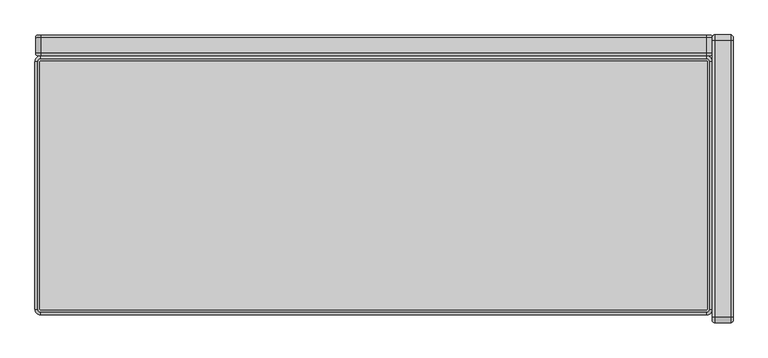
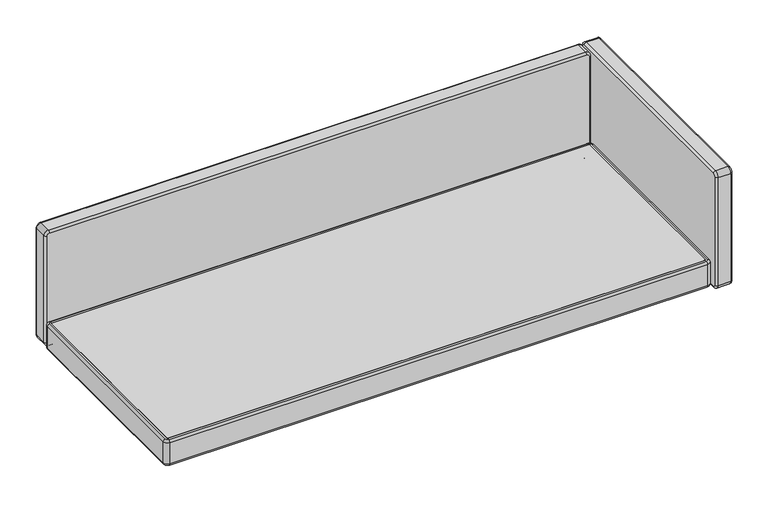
"""IFC4 building model written with IfcOpenShell, lengths in millimetres: furniture geometry, Fredericia - EJ220 Sofa 2 seater 100 - 2062 : Fredericia - EJ220 Sofa 2 seater 100 - 2062."""

from ifc_helpers import new_model, si_unit, point, frame, origin, place, context, project, spatial, circle_curve, ellipse_curve, trimmed, source, transform, mapped, element, save
from ifc_brep_helpers import plane_surface, cylinder_surface, revolved_surface, advanced_brep


def furniture_a06d87e3(model_context):
    return source(origin(), model_context, "Body", "AdvancedBrep", [
        advanced_brep(
        [(-990.361679, 788.5182574, 617.6458587), (-990.361679, 788.5182574, 207.2714708), (-980.761679, 788.5182574, 197.6714708), (982.5320736, 788.5182574, 197.6714708), (992.1320736, 788.5182574, 207.2714708), (992.1320736, 788.5182574, 617.6458587), (982.5320736, 788.5182574, 627.2458587), (-980.761679, 788.5182574, 627.2458587), (-990.361679, 850.0101989, 207.2714708), (-990.361679, 850.0101989, 617.6458587), (-980.761679, 850.0101989, 627.2458587), (982.5320736, 850.0101989, 627.2458587), (992.1320736, 850.0101989, 617.6458587), (992.1320736, 850.0101989, 207.2714708), (982.5320736, 850.0101989, 197.6714708), (-980.761679, 850.0101989, 197.6714708), (-997.861679, 796.0182574, 207.2714708), (-997.861679, 796.0182574, 617.6458587), (-997.861679, 842.5101989, 617.6458587), (-997.861679, 842.5101989, 207.2714708), (-980.761679, 796.0182574, 634.7458587), (982.5320736, 796.0182574, 634.7458587), (982.5320736, 842.5101989, 634.7458587), (-980.761679, 842.5101989, 634.7458587), (999.6320736, 796.0182574, 617.6458587), (999.6320736, 796.0182574, 207.2714708), (999.6320736, 842.5101989, 207.2714708), (999.6320736, 842.5101989, 617.6458587), (982.5320736, 796.0182574, 190.1714708), (-980.761679, 796.0182574, 190.1714708), (-980.761679, 842.5101989, 190.1714708), (982.5320736, 842.5101989, 190.1714708)],
        [
            (0, 1),
            (1, 2, circle_curve(frame((-980.761679, 788.5182574, 207.2714708), z_axis=(0.0, -1.0, 0.0), x_axis=(0.0, 0.0, -1.0)), 9.6)),
            (2, 3),
            (3, 4, circle_curve(frame((982.5320736, 788.5182574, 207.2714708), z_axis=(0.0, -1.0, 0.0), x_axis=(1.0, 0.0, 0.0)), 9.6)),
            (4, 5),
            (5, 6, circle_curve(frame((982.5320736, 788.5182574, 617.6458587), z_axis=(0.0, -1.0, 0.0), x_axis=(0.0, 0.0, 1.0)), 9.6)),
            (6, 7),
            (7, 0, circle_curve(frame((-980.761679, 788.5182574, 617.6458587), z_axis=(0.0, -1.0, 0.0), x_axis=(-1.0, 0.0, 0.0)), 9.6)),
            (8, 9),
            (9, 10, circle_curve(frame((-980.761679, 850.0101989, 617.6458587), z_axis=(0.0, 1.0, 0.0), x_axis=(-1.0, 0.0, 0.0)), 9.6)),
            (10, 11),
            (11, 12, circle_curve(frame((982.5320736, 850.0101989, 617.6458587), z_axis=(0.0, 1.0, 0.0), x_axis=(0.0, 0.0, 1.0)), 9.6)),
            (12, 13),
            (13, 14, circle_curve(frame((982.5320736, 850.0101989, 207.2714708), z_axis=(0.0, 1.0, 0.0), x_axis=(1.0, 0.0, 0.0)), 9.6)),
            (14, 15),
            (15, 8, circle_curve(frame((-980.761679, 850.0101989, 207.2714708), z_axis=(0.0, 1.0, 0.0), x_axis=(0.0, 0.0, -1.0)), 9.6)),
            (16, 1, circle_curve(frame((-990.361679, 796.0182574, 207.2714708), z_axis=(0.0, 0.0, 1.0), x_axis=(1.0, 0.0, 0.0)), 7.5)),
            (0, 17, circle_curve(frame((-990.361679, 796.0182574, 617.6458587), z_axis=(0.0, 0.0, -1.0), x_axis=(1.0, 0.0, 0.0)), 7.5)),
            (17, 16),
            (17, 18),
            (18, 19),
            (19, 16),
            (18, 9, circle_curve(frame((-990.361679, 842.5101989, 617.6458587), z_axis=(0.0, 0.0, -1.0), x_axis=(1.0, 0.0, 0.0)), 7.5)),
            (8, 19, circle_curve(frame((-990.361679, 842.5101989, 207.2714708), z_axis=(0.0, 0.0, 1.0), x_axis=(1.0, 0.0, 0.0)), 7.5)),
            (20, 7, circle_curve(frame((-980.761679, 796.0182574, 627.2458587), z_axis=(1.0, 0.0, 0.0), x_axis=(0.0, 0.0, -1.0)), 7.5)),
            (6, 21, circle_curve(frame((982.5320736, 796.0182574, 627.2458587), z_axis=(-1.0, 0.0, 0.0), x_axis=(0.0, 0.0, -1.0)), 7.5)),
            (21, 20),
            (21, 22),
            (22, 23),
            (23, 20),
            (22, 11, circle_curve(frame((982.5320736, 842.5101989, 627.2458587), z_axis=(-1.0, 0.0, 0.0), x_axis=(0.0, 0.0, -1.0)), 7.5)),
            (10, 23, circle_curve(frame((-980.761679, 842.5101989, 627.2458587), z_axis=(1.0, 0.0, 0.0), x_axis=(0.0, 0.0, -1.0)), 7.5)),
            (24, 5, circle_curve(frame((992.1320736, 796.0182574, 617.6458587), z_axis=(0.0, 0.0, -1.0), x_axis=(-1.0, 0.0, 0.0)), 7.5)),
            (4, 25, circle_curve(frame((992.1320736, 796.0182574, 207.2714708), z_axis=(0.0, 0.0, 1.0), x_axis=(-1.0, 0.0, 0.0)), 7.5)),
            (25, 24),
            (25, 26),
            (26, 27),
            (27, 24),
            (26, 13, circle_curve(frame((992.1320736, 842.5101989, 207.2714708), z_axis=(0.0, 0.0, 1.0), x_axis=(-1.0, 0.0, 0.0)), 7.5)),
            (12, 27, circle_curve(frame((992.1320736, 842.5101989, 617.6458587), z_axis=(0.0, 0.0, -1.0), x_axis=(-1.0, 0.0, 0.0)), 7.5)),
            (28, 3, circle_curve(frame((982.5320736, 796.0182574, 197.6714708), z_axis=(-1.0, 0.0, 0.0), x_axis=(0.0, 0.0, 1.0)), 7.5)),
            (2, 29, circle_curve(frame((-980.761679, 796.0182574, 197.6714708), z_axis=(1.0, 0.0, 0.0), x_axis=(0.0, 0.0, 1.0)), 7.5)),
            (29, 28),
            (29, 30),
            (30, 31),
            (31, 28),
            (30, 15, circle_curve(frame((-980.761679, 842.5101989, 197.6714708), z_axis=(1.0, 0.0, 0.0), x_axis=(0.0, 0.0, 1.0)), 7.5)),
            (14, 31, circle_curve(frame((982.5320736, 842.5101989, 197.6714708), z_axis=(-1.0, 0.0, 0.0), x_axis=(0.0, 0.0, 1.0)), 7.5)),
            (16, 29, circle_curve(frame((-980.761679, 796.0182574, 207.2714708), z_axis=(0.0, -1.0, 0.0), x_axis=(0.0, 0.0, -1.0)), 17.1)),
            (19, 30, circle_curve(frame((-980.761679, 842.5101989, 207.2714708), z_axis=(0.0, -1.0, 0.0), x_axis=(0.0, 0.0, -1.0)), 17.1)),
            (20, 17, circle_curve(frame((-980.761679, 796.0182574, 617.6458587), z_axis=(0.0, -1.0, 0.0), x_axis=(-1.0, 0.0, 0.0)), 17.1)),
            (23, 18, circle_curve(frame((-980.761679, 842.5101989, 617.6458587), z_axis=(0.0, -1.0, 0.0), x_axis=(-1.0, 0.0, 0.0)), 17.1)),
            (24, 21, circle_curve(frame((982.5320736, 796.0182574, 617.6458587), z_axis=(0.0, -1.0, 0.0), x_axis=(0.0, 0.0, 1.0)), 17.1)),
            (27, 22, circle_curve(frame((982.5320736, 842.5101989, 617.6458587), z_axis=(0.0, -1.0, 0.0), x_axis=(0.0, 0.0, 1.0)), 17.1)),
            (28, 25, circle_curve(frame((982.5320736, 796.0182574, 207.2714708), z_axis=(0.0, -1.0, 0.0), x_axis=(1.0, 0.0, 0.0)), 17.1)),
            (31, 26, circle_curve(frame((982.5320736, 842.5101989, 207.2714708), z_axis=(0.0, -1.0, 0.0), x_axis=(1.0, 0.0, 0.0)), 17.1)),
        ],
        [
            plane_surface(frame((401.3694773, 788.5182574, 622.3295429), z_axis=(0.0, -1.0, 0.0), x_axis=(-1.0, 0.0, 0.0))),
            plane_surface(frame((401.3694773, 850.0101989, 622.3295429), z_axis=(0.0, 1.0, 0.0), x_axis=(1.0, 0.0, 0.0))),
            cylinder_surface(frame((-990.361679, 796.0182574, 207.2714708), z_axis=(0.0, 0.0, -1.0), x_axis=(1.0, 0.0, 0.0)), 7.5),
            plane_surface(frame((-997.861679, 796.0182574, 207.2714708), z_axis=(-1.0, 0.0, 0.0), x_axis=(0.0, 0.0, 1.0))),
            cylinder_surface(frame((-990.361679, 842.5101989, 207.2714708), z_axis=(0.0, 0.0, -1.0), x_axis=(1.0, 0.0, 0.0)), 7.5),
            cylinder_surface(frame((-980.761679, 796.0182574, 627.2458587), z_axis=(-1.0, 0.0, 0.0), x_axis=(0.0, 0.0, -1.0)), 7.5),
            plane_surface(frame((-980.761679, 796.0182574, 634.7458587), z_axis=(0.0, 0.0, 1.0), x_axis=(1.0, 0.0, 0.0))),
            cylinder_surface(frame((-980.761679, 842.5101989, 627.2458587), z_axis=(-1.0, 0.0, 0.0), x_axis=(0.0, 0.0, -1.0)), 7.5),
            cylinder_surface(frame((992.1320736, 796.0182574, 617.6458587), z_axis=(0.0, 0.0, 1.0), x_axis=(-1.0, 0.0, 0.0)), 7.5),
            plane_surface(frame((999.6320736, 796.0182574, 617.6458587), z_axis=(1.0, 0.0, 0.0), x_axis=(0.0, 0.0, -1.0))),
            cylinder_surface(frame((992.1320736, 842.5101989, 617.6458587), z_axis=(0.0, 0.0, 1.0), x_axis=(-1.0, 0.0, 0.0)), 7.5),
            cylinder_surface(frame((982.5320736, 796.0182574, 197.6714708), z_axis=(1.0, 0.0, 0.0), x_axis=(0.0, 0.0, 1.0)), 7.5),
            plane_surface(frame((982.5320736, 796.0182574, 190.1714708), z_axis=(0.0, 0.0, -1.0), x_axis=(-1.0, 0.0, 0.0))),
            cylinder_surface(frame((982.5320736, 842.5101989, 197.6714708), z_axis=(1.0, 0.0, 0.0), x_axis=(0.0, 0.0, 1.0)), 7.5),
            revolved_surface(trimmed(ellipse_curve(frame((-980.761679, 796.0182574, 197.6714708), z_axis=(1.0, 0.0, 0.0), x_axis=(0.0, 0.0, 1.0)), 7.5, 7.5), [point((-980.761679, 788.5182574, 197.6714708))], [point((-980.761679, 796.0182574, 190.1714708))], True, "CARTESIAN"), (-980.761679, 850.0101989, 207.2714708), (0.0, 1.0, 0.0)),
            cylinder_surface(frame((-980.761679, 850.0101989, 207.2714708), z_axis=(0.0, 1.0, 0.0), x_axis=(0.0, 0.0, -1.0)), 17.1),
            revolved_surface(trimmed(ellipse_curve(frame((-980.761679, 842.5101989, 197.6714708), z_axis=(1.0, 0.0, 0.0), x_axis=(0.0, 0.0, 1.0)), 7.5, 7.5), [point((-980.761679, 842.5101989, 190.1714708))], [point((-980.761679, 850.0101989, 197.6714708))], True, "CARTESIAN"), (-980.761679, 850.0101989, 207.2714708), (0.0, 1.0, 0.0)),
            revolved_surface(trimmed(ellipse_curve(frame((-990.361679, 796.0182574, 617.6458587), z_axis=(0.0, 0.0, -1.0), x_axis=(1.0, 0.0, 0.0)), 7.5, 7.5), [point((-990.361679, 788.5182574, 617.6458587))], [point((-997.861679, 796.0182574, 617.6458587))], True, "CARTESIAN"), (-980.761679, 850.0101989, 617.6458587), (0.0, 1.0, 0.0)),
            cylinder_surface(frame((-980.761679, 850.0101989, 617.6458587), z_axis=(0.0, 1.0, 0.0), x_axis=(-1.0, 0.0, 0.0)), 17.1),
            revolved_surface(trimmed(ellipse_curve(frame((-990.361679, 842.5101989, 617.6458587), z_axis=(0.0, 0.0, -1.0), x_axis=(1.0, 0.0, 0.0)), 7.5, 7.5), [point((-997.861679, 842.5101989, 617.6458587))], [point((-990.361679, 850.0101989, 617.6458587))], True, "CARTESIAN"), (-980.761679, 850.0101989, 617.6458587), (0.0, 1.0, 0.0)),
            revolved_surface(trimmed(ellipse_curve(frame((982.5320736, 796.0182574, 627.2458587), z_axis=(-1.0, 0.0, 0.0), x_axis=(0.0, 0.0, -1.0)), 7.5, 7.5), [point((982.5320736, 788.5182574, 627.2458587))], [point((982.5320736, 796.0182574, 634.7458587))], True, "CARTESIAN"), (982.5320736, 850.0101989, 617.6458587), (0.0, 1.0, 0.0)),
            cylinder_surface(frame((982.5320736, 850.0101989, 617.6458587), z_axis=(0.0, 1.0, 0.0), x_axis=(0.0, 0.0, 1.0)), 17.1),
            revolved_surface(trimmed(ellipse_curve(frame((982.5320736, 842.5101989, 627.2458587), z_axis=(-1.0, 0.0, 0.0), x_axis=(0.0, 0.0, -1.0)), 7.5, 7.5), [point((982.5320736, 842.5101989, 634.7458587))], [point((982.5320736, 850.0101989, 627.2458587))], True, "CARTESIAN"), (982.5320736, 850.0101989, 617.6458587), (0.0, 1.0, 0.0)),
            revolved_surface(trimmed(ellipse_curve(frame((992.1320736, 796.0182574, 207.2714708), z_axis=(0.0, 0.0, 1.0), x_axis=(-1.0, 0.0, 0.0)), 7.5, 7.5), [point((992.1320736, 788.5182574, 207.2714708))], [point((999.6320736, 796.0182574, 207.2714708))], True, "CARTESIAN"), (982.5320736, 850.0101989, 207.2714708), (0.0, 1.0, 0.0)),
            cylinder_surface(frame((982.5320736, 850.0101989, 207.2714708), z_axis=(0.0, 1.0, 0.0), x_axis=(1.0, 0.0, 0.0)), 17.1),
            revolved_surface(trimmed(ellipse_curve(frame((992.1320736, 842.5101989, 207.2714708), z_axis=(0.0, 0.0, 1.0), x_axis=(-1.0, 0.0, 0.0)), 7.5, 7.5), [point((999.6320736, 842.5101989, 207.2714708))], [point((992.1320736, 850.0101989, 207.2714708))], True, "CARTESIAN"), (982.5320736, 850.0101989, 207.2714708), (0.0, 1.0, 0.0)),
        ],
        [
            (0, [[1, 2, 3, 4, 5, 6, 7, 8]]),
            (1, [[9, 10, 11, 12, 13, 14, 15, 16]]),
            (2, [[17, -1, 18, 19]]),
            (3, [[-19, 20, 21, 22]]),
            (4, [[-21, 23, -9, 24]]),
            (5, [[25, -7, 26, 27]]),
            (6, [[-27, 28, 29, 30]]),
            (7, [[-29, 31, -11, 32]]),
            (8, [[33, -5, 34, 35]]),
            (9, [[-35, 36, 37, 38]]),
            (10, [[-37, 39, -13, 40]]),
            (11, [[41, -3, 42, 43]]),
            (12, [[-43, 44, 45, 46]]),
            (13, [[-45, 47, -15, 48]]),
            (14, [[-17, 49, -42, -2]]),
            (15, [[-22, 50, -44, -49]]),
            (16, [[-24, -16, -47, -50]]),
            (17, [[-18, -8, -25, 51]]),
            (18, [[-20, -51, -30, 52]]),
            (19, [[-23, -52, -32, -10]]),
            (20, [[-26, -6, -33, 53]]),
            (21, [[-28, -53, -38, 54]]),
            (22, [[-31, -54, -40, -12]]),
            (23, [[-34, -4, -41, 55]]),
            (24, [[-36, -55, -46, 56]]),
            (25, [[-39, -56, -48, -14]]),
        ],
    ),
        advanced_brep(
        [(-992.1320736, 39.8, 192.7880862), (-992.1320736, 770.9641303, 192.7880862), (-982.5320736, 780.5641303, 192.7880862), (982.5320736, 780.5641303, 192.7880862), (992.1320736, 770.9641303, 192.7880862), (992.1320736, 39.8, 192.7880862), (982.5320736, 30.2, 192.7880862), (-982.5320736, 30.2, 192.7880862), (-982.5320736, 37.7, 290.0), (982.5320736, 37.7, 290.0), (984.6320736, 39.8, 290.0), (984.6320736, 770.9641303, 290.0), (982.5320736, 773.0641303, 290.0), (-982.5320736, 773.0641303, 290.0), (-984.6320736, 770.9641303, 290.0), (-984.6320736, 39.8, 290.0), (-982.5320736, 37.7, 289.8211901), (982.5320736, 37.7, 289.8211901), (984.6320736, 39.8, 289.8211901), (984.6320736, 770.9641303, 289.8211901), (982.5320736, 773.0641303, 289.8211901), (-982.5320736, 773.0641303, 289.8211901), (-984.6320736, 770.9641303, 289.8211901), (-984.6320736, 39.8, 289.8211901), (-999.6320736, 770.9641303, 200.2880862), (-999.6320736, 39.8, 200.2880862), (-999.6320736, 39.8, 282.3211901), (-999.6320736, 770.9641303, 282.3211901), (-992.1320736, 39.8, 289.8211901), (-992.1320736, 770.9641303, 289.8211901), (-982.5320736, 22.7, 200.2880862), (982.5320736, 22.7, 200.2880862), (982.5320736, 22.7, 282.3211901), (-982.5320736, 22.7, 282.3211901), (982.5320736, 30.2, 289.8211901), (-982.5320736, 30.2, 289.8211901), (999.6320736, 39.8, 200.2880862), (999.6320736, 770.9641303, 200.2880862), (999.6320736, 770.9641303, 282.3211901), (999.6320736, 39.8, 282.3211901), (992.1320736, 770.9641303, 289.8211901), (992.1320736, 39.8, 289.8211901), (982.5320736, 788.0641303, 200.2880862), (-982.5320736, 788.0641303, 200.2880862), (-982.5320736, 788.0641303, 282.3211901), (982.5320736, 788.0641303, 282.3211901), (-982.5320736, 780.5641303, 289.8211901), (982.5320736, 780.5641303, 289.8211901)],
        [
            (0, 1),
            (1, 2, circle_curve(frame((-982.5320736, 770.9641303, 192.7880862), z_axis=(0.0, 0.0, -1.0), x_axis=(0.0, 1.0, 0.0)), 9.6)),
            (2, 3),
            (3, 4, circle_curve(frame((982.5320736, 770.9641303, 192.7880862), z_axis=(0.0, 0.0, -1.0), x_axis=(1.0, 0.0, 0.0)), 9.6)),
            (4, 5),
            (5, 6, circle_curve(frame((982.5320736, 39.8, 192.7880862), z_axis=(0.0, 0.0, -1.0), x_axis=(0.0, -1.0, 0.0)), 9.6)),
            (6, 7),
            (7, 0, circle_curve(frame((-982.5320736, 39.8, 192.7880862), z_axis=(0.0, 0.0, -1.0), x_axis=(-1.0, 0.0, 0.0)), 9.6)),
            (8, 9),
            (9, 10, circle_curve(frame((982.5320736, 39.8, 290.0), z_axis=(0.0, 0.0, 1.0), x_axis=(0.0, 1.0, 0.0)), 2.1)),
            (10, 11),
            (11, 12, circle_curve(frame((982.5320736, 770.9641303, 290.0), z_axis=(0.0, 0.0, 1.0), x_axis=(0.0, 1.0, 0.0)), 2.1)),
            (12, 13),
            (13, 14, circle_curve(frame((-982.5320736, 770.9641303, 290.0), z_axis=(0.0, 0.0, 1.0), x_axis=(0.0, 1.0, 0.0)), 2.1)),
            (14, 15),
            (15, 8, circle_curve(frame((-982.5320736, 39.8, 290.0), z_axis=(0.0, 0.0, 1.0), x_axis=(0.0, 1.0, 0.0)), 2.1)),
            (8, 16),
            (16, 17),
            (17, 9),
            (17, 18, circle_curve(frame((982.5320736, 39.8, 289.8211901), z_axis=(0.0, 0.0, 1.0), x_axis=(0.0, 1.0, 0.0)), 2.1)),
            (18, 10),
            (18, 19),
            (19, 11),
            (19, 20, circle_curve(frame((982.5320736, 770.9641303, 289.8211901), z_axis=(0.0, 0.0, 1.0), x_axis=(0.0, 1.0, 0.0)), 2.1)),
            (20, 12),
            (20, 21),
            (21, 13),
            (21, 22, circle_curve(frame((-982.5320736, 770.9641303, 289.8211901), z_axis=(0.0, 0.0, 1.0), x_axis=(0.0, 1.0, 0.0)), 2.1)),
            (22, 14),
            (22, 23),
            (23, 15),
            (23, 16, circle_curve(frame((-982.5320736, 39.8, 289.8211901), z_axis=(0.0, 0.0, 1.0), x_axis=(0.0, 1.0, 0.0)), 2.1)),
            (24, 1, circle_curve(frame((-992.1320736, 770.9641303, 200.2880862), z_axis=(0.0, -1.0, 0.0), x_axis=(1.0, 0.0, 0.0)), 7.5)),
            (0, 25, circle_curve(frame((-992.1320736, 39.8, 200.2880862), z_axis=(0.0, 1.0, 0.0), x_axis=(1.0, 0.0, 0.0)), 7.5)),
            (25, 24),
            (25, 26),
            (26, 27),
            (27, 24),
            (26, 28, circle_curve(frame((-992.1320736, 39.8, 282.3211901), z_axis=(0.0, 1.0, 0.0), x_axis=(1.0, 0.0, 0.0)), 7.5)),
            (28, 29),
            (29, 27, circle_curve(frame((-992.1320736, 770.9641303, 282.3211901), z_axis=(0.0, -1.0, 0.0), x_axis=(1.0, 0.0, 0.0)), 7.5)),
            (30, 7, circle_curve(frame((-982.5320736, 30.2, 200.2880862), z_axis=(1.0, 0.0, 0.0), x_axis=(0.0, 1.0, 0.0)), 7.5)),
            (6, 31, circle_curve(frame((982.5320736, 30.2, 200.2880862), z_axis=(-1.0, 0.0, 0.0), x_axis=(0.0, 1.0, 0.0)), 7.5)),
            (31, 30),
            (31, 32),
            (32, 33),
            (33, 30),
            (32, 34, circle_curve(frame((982.5320736, 30.2, 282.3211901), z_axis=(-1.0, 0.0, 0.0), x_axis=(0.0, 1.0, 0.0)), 7.5)),
            (34, 35),
            (35, 33, circle_curve(frame((-982.5320736, 30.2, 282.3211901), z_axis=(1.0, 0.0, 0.0), x_axis=(0.0, 1.0, 0.0)), 7.5)),
            (36, 5, circle_curve(frame((992.1320736, 39.8, 200.2880862), z_axis=(0.0, 1.0, 0.0), x_axis=(-1.0, 0.0, 0.0)), 7.5)),
            (4, 37, circle_curve(frame((992.1320736, 770.9641303, 200.2880862), z_axis=(0.0, -1.0, 0.0), x_axis=(-1.0, 0.0, 0.0)), 7.5)),
            (37, 36),
            (37, 38),
            (38, 39),
            (39, 36),
            (38, 40, circle_curve(frame((992.1320736, 770.9641303, 282.3211901), z_axis=(0.0, -1.0, 0.0), x_axis=(-1.0, 0.0, 0.0)), 7.5)),
            (40, 41),
            (41, 39, circle_curve(frame((992.1320736, 39.8, 282.3211901), z_axis=(0.0, 1.0, 0.0), x_axis=(-1.0, 0.0, 0.0)), 7.5)),
            (42, 3, circle_curve(frame((982.5320736, 780.5641303, 200.2880862), z_axis=(-1.0, 0.0, 0.0), x_axis=(0.0, -1.0, 0.0)), 7.5)),
            (2, 43, circle_curve(frame((-982.5320736, 780.5641303, 200.2880862), z_axis=(1.0, 0.0, 0.0), x_axis=(0.0, -1.0, 0.0)), 7.5)),
            (43, 42),
            (43, 44),
            (44, 45),
            (45, 42),
            (44, 46, circle_curve(frame((-982.5320736, 780.5641303, 282.3211901), z_axis=(1.0, 0.0, 0.0), x_axis=(0.0, -1.0, 0.0)), 7.5)),
            (46, 47),
            (47, 45, circle_curve(frame((982.5320736, 780.5641303, 282.3211901), z_axis=(-1.0, 0.0, 0.0), x_axis=(0.0, -1.0, 0.0)), 7.5)),
            (24, 43, circle_curve(frame((-982.5320736, 770.9641303, 200.2880862), z_axis=(0.0, 0.0, -1.0), x_axis=(0.0, 1.0, 0.0)), 17.1)),
            (27, 44, circle_curve(frame((-982.5320736, 770.9641303, 282.3211901), z_axis=(0.0, 0.0, -1.0), x_axis=(0.0, 1.0, 0.0)), 17.1)),
            (29, 46, circle_curve(frame((-982.5320736, 770.9641303, 289.8211901), z_axis=(0.0, 0.0, -1.0), x_axis=(0.0, 1.0, 0.0)), 9.6)),
            (30, 25, circle_curve(frame((-982.5320736, 39.8, 200.2880862), z_axis=(0.0, 0.0, -1.0), x_axis=(-1.0, 0.0, 0.0)), 17.1)),
            (33, 26, circle_curve(frame((-982.5320736, 39.8, 282.3211901), z_axis=(0.0, 0.0, -1.0), x_axis=(-1.0, 0.0, 0.0)), 17.1)),
            (35, 28, circle_curve(frame((-982.5320736, 39.8, 289.8211901), z_axis=(0.0, 0.0, -1.0), x_axis=(-1.0, 0.0, 0.0)), 9.6)),
            (36, 31, circle_curve(frame((982.5320736, 39.8, 200.2880862), z_axis=(0.0, 0.0, -1.0), x_axis=(0.0, -1.0, 0.0)), 17.1)),
            (39, 32, circle_curve(frame((982.5320736, 39.8, 282.3211901), z_axis=(0.0, 0.0, -1.0), x_axis=(0.0, -1.0, 0.0)), 17.1)),
            (41, 34, circle_curve(frame((982.5320736, 39.8, 289.8211901), z_axis=(0.0, 0.0, -1.0), x_axis=(0.0, -1.0, 0.0)), 9.6)),
            (42, 37, circle_curve(frame((982.5320736, 770.9641303, 200.2880862), z_axis=(0.0, 0.0, -1.0), x_axis=(1.0, 0.0, 0.0)), 17.1)),
            (45, 38, circle_curve(frame((982.5320736, 770.9641303, 282.3211901), z_axis=(0.0, 0.0, -1.0), x_axis=(1.0, 0.0, 0.0)), 17.1)),
            (47, 40, circle_curve(frame((982.5320736, 770.9641303, 289.8211901), z_axis=(0.0, 0.0, -1.0), x_axis=(1.0, 0.0, 0.0)), 9.6)),
        ],
        [
            plane_surface(frame((401.9530797, 37.7, 192.7880862), z_axis=(0.0, 0.0, -1.0), x_axis=(-1.0, 0.0, 0.0))),
            plane_surface(frame((401.9530797, 37.7, 290.0), z_axis=(0.0, 0.0, 1.0), x_axis=(1.0, 0.0, 0.0))),
            plane_surface(frame((-982.5320736, 37.7, 290.0), z_axis=(0.0, -1.0, 0.0), x_axis=(0.0, 0.0, -1.0))),
            cylinder_surface(frame((982.5320736, 39.8, 192.7880862), z_axis=(0.0, 0.0, 1.0), x_axis=(0.0, 1.0, 0.0)), 2.1),
            plane_surface(frame((984.6320736, 39.8, 290.0), z_axis=(1.0, 0.0, 0.0), x_axis=(0.0, 0.0, -1.0))),
            cylinder_surface(frame((982.5320736, 770.9641303, 192.7880862), z_axis=(0.0, 0.0, 1.0), x_axis=(0.0, 1.0, 0.0)), 2.1),
            plane_surface(frame((982.5320736, 773.0641303, 290.0), z_axis=(0.0, 1.0, 0.0), x_axis=(0.0, 0.0, -1.0))),
            cylinder_surface(frame((-982.5320736, 770.9641303, 192.7880862), z_axis=(0.0, 0.0, 1.0), x_axis=(0.0, 1.0, 0.0)), 2.1),
            plane_surface(frame((-984.6320736, 770.9641303, 290.0), z_axis=(-1.0, 0.0, 0.0), x_axis=(0.0, 0.0, -1.0))),
            cylinder_surface(frame((-982.5320736, 39.8, 192.7880862), z_axis=(0.0, 0.0, 1.0), x_axis=(0.0, 1.0, 0.0)), 2.1),
            cylinder_surface(frame((-992.1320736, 770.9641303, 200.2880862), z_axis=(0.0, 1.0, 0.0), x_axis=(1.0, 0.0, 0.0)), 7.5),
            plane_surface(frame((-999.6320736, 770.9641303, 200.2880862), z_axis=(-1.0, 0.0, 0.0), x_axis=(0.0, -1.0, 0.0))),
            cylinder_surface(frame((-992.1320736, 770.9641303, 282.3211901), z_axis=(0.0, 1.0, 0.0), x_axis=(1.0, 0.0, 0.0)), 7.5),
            cylinder_surface(frame((-982.5320736, 30.2, 200.2880862), z_axis=(-1.0, 0.0, 0.0), x_axis=(0.0, 1.0, 0.0)), 7.5),
            plane_surface(frame((-982.5320736, 22.7, 200.2880862), z_axis=(0.0, -1.0, 0.0), x_axis=(1.0, 0.0, 0.0))),
            cylinder_surface(frame((-982.5320736, 30.2, 282.3211901), z_axis=(-1.0, 0.0, 0.0), x_axis=(0.0, 1.0, 0.0)), 7.5),
            cylinder_surface(frame((992.1320736, 39.8, 200.2880862), z_axis=(0.0, -1.0, 0.0), x_axis=(-1.0, 0.0, 0.0)), 7.5),
            plane_surface(frame((999.6320736, 39.8, 200.2880862), z_axis=(1.0, 0.0, 0.0), x_axis=(0.0, 1.0, 0.0))),
            cylinder_surface(frame((992.1320736, 39.8, 282.3211901), z_axis=(0.0, -1.0, 0.0), x_axis=(-1.0, 0.0, 0.0)), 7.5),
            cylinder_surface(frame((982.5320736, 780.5641303, 200.2880862), z_axis=(1.0, 0.0, 0.0), x_axis=(0.0, -1.0, 0.0)), 7.5),
            plane_surface(frame((982.5320736, 788.0641303, 200.2880862), z_axis=(0.0, 1.0, 0.0), x_axis=(-1.0, 0.0, 0.0))),
            cylinder_surface(frame((982.5320736, 780.5641303, 282.3211901), z_axis=(1.0, 0.0, 0.0), x_axis=(0.0, -1.0, 0.0)), 7.5),
            revolved_surface(trimmed(ellipse_curve(frame((-982.5320736, 780.5641303, 200.2880862), z_axis=(1.0, 0.0, 0.0), x_axis=(0.0, -1.0, 0.0)), 7.5, 7.5), [point((-982.5320736, 780.5641303, 192.7880862))], [point((-982.5320736, 788.0641303, 200.2880862))], True, "CARTESIAN"), (-982.5320736, 770.9641303, 334.7169816), (0.0, 0.0, 1.0)),
            cylinder_surface(frame((-982.5320736, 770.9641303, 334.7169816), z_axis=(0.0, 0.0, 1.0), x_axis=(0.0, 1.0, 0.0)), 17.1),
            revolved_surface(trimmed(ellipse_curve(frame((-982.5320736, 780.5641303, 282.3211901), z_axis=(1.0, 0.0, 0.0), x_axis=(0.0, -1.0, 0.0)), 7.5, 7.5), [point((-982.5320736, 788.0641303, 282.3211901))], [point((-982.5320736, 780.5641303, 289.8211901))], True, "CARTESIAN"), (-982.5320736, 770.9641303, 334.7169816), (0.0, 0.0, 1.0)),
            revolved_surface(trimmed(ellipse_curve(frame((-992.1320736, 39.8, 200.2880862), z_axis=(0.0, 1.0, 0.0), x_axis=(1.0, 0.0, 0.0)), 7.5, 7.5), [point((-992.1320736, 39.8, 192.7880862))], [point((-999.6320736, 39.8, 200.2880862))], True, "CARTESIAN"), (-982.5320736, 39.8, 334.7169816), (0.0, 0.0, 1.0)),
            cylinder_surface(frame((-982.5320736, 39.8, 334.7169816), z_axis=(0.0, 0.0, 1.0), x_axis=(-1.0, 0.0, 0.0)), 17.1),
            revolved_surface(trimmed(ellipse_curve(frame((-992.1320736, 39.8, 282.3211901), z_axis=(0.0, 1.0, 0.0), x_axis=(1.0, 0.0, 0.0)), 7.5, 7.5), [point((-999.6320736, 39.8, 282.3211901))], [point((-992.1320736, 39.8, 289.8211901))], True, "CARTESIAN"), (-982.5320736, 39.8, 334.7169816), (0.0, 0.0, 1.0)),
            revolved_surface(trimmed(ellipse_curve(frame((982.5320736, 30.2, 200.2880862), z_axis=(-1.0, 0.0, 0.0), x_axis=(0.0, 1.0, 0.0)), 7.5, 7.5), [point((982.5320736, 30.2, 192.7880862))], [point((982.5320736, 22.7, 200.2880862))], True, "CARTESIAN"), (982.5320736, 39.8, 334.7169816), (0.0, 0.0, 1.0)),
            cylinder_surface(frame((982.5320736, 39.8, 334.7169816), z_axis=(0.0, 0.0, 1.0), x_axis=(0.0, -1.0, 0.0)), 17.1),
            revolved_surface(trimmed(ellipse_curve(frame((982.5320736, 30.2, 282.3211901), z_axis=(-1.0, 0.0, 0.0), x_axis=(0.0, 1.0, 0.0)), 7.5, 7.5), [point((982.5320736, 22.7, 282.3211901))], [point((982.5320736, 30.2, 289.8211901))], True, "CARTESIAN"), (982.5320736, 39.8, 334.7169816), (0.0, 0.0, 1.0)),
            revolved_surface(trimmed(ellipse_curve(frame((992.1320736, 770.9641303, 200.2880862), z_axis=(0.0, -1.0, 0.0), x_axis=(-1.0, 0.0, 0.0)), 7.5, 7.5), [point((992.1320736, 770.9641303, 192.7880862))], [point((999.6320736, 770.9641303, 200.2880862))], True, "CARTESIAN"), (982.5320736, 770.9641303, 334.7169816), (0.0, 0.0, 1.0)),
            cylinder_surface(frame((982.5320736, 770.9641303, 334.7169816), z_axis=(0.0, 0.0, 1.0), x_axis=(1.0, 0.0, 0.0)), 17.1),
            revolved_surface(trimmed(ellipse_curve(frame((992.1320736, 770.9641303, 282.3211901), z_axis=(0.0, -1.0, 0.0), x_axis=(-1.0, 0.0, 0.0)), 7.5, 7.5), [point((999.6320736, 770.9641303, 282.3211901))], [point((992.1320736, 770.9641303, 289.8211901))], True, "CARTESIAN"), (982.5320736, 770.9641303, 334.7169816), (0.0, 0.0, 1.0)),
            plane_surface(frame((982.5320736, 770.9641303, 289.8211901), z_axis=(0.0, 0.0, 1.0), x_axis=(1.0, 0.0, 0.0))),
        ],
        [
            (0, [[1, 2, 3, 4, 5, 6, 7, 8]]),
            (1, [[9, 10, 11, 12, 13, 14, 15, 16]]),
            (2, [[-9, 17, 18, 19]]),
            (3, [[-10, -19, 20, 21]]),
            (4, [[-11, -21, 22, 23]]),
            (5, [[-12, -23, 24, 25]]),
            (6, [[-13, -25, 26, 27]]),
            (7, [[-14, -27, 28, 29]]),
            (8, [[-15, -29, 30, 31]]),
            (9, [[-16, -31, 32, -17]]),
            (10, [[33, -1, 34, 35]]),
            (11, [[-35, 36, 37, 38]]),
            (12, [[-37, 39, 40, 41]]),
            (13, [[42, -7, 43, 44]]),
            (14, [[-44, 45, 46, 47]]),
            (15, [[-46, 48, 49, 50]]),
            (16, [[51, -5, 52, 53]]),
            (17, [[-53, 54, 55, 56]]),
            (18, [[-55, 57, 58, 59]]),
            (19, [[60, -3, 61, 62]]),
            (20, [[-62, 63, 64, 65]]),
            (21, [[-64, 66, 67, 68]]),
            (22, [[-33, 69, -61, -2]]),
            (23, [[-38, 70, -63, -69]]),
            (24, [[-41, 71, -66, -70]]),
            (25, [[-34, -8, -42, 72]]),
            (26, [[-36, -72, -47, 73]]),
            (27, [[-39, -73, -50, 74]]),
            (28, [[-43, -6, -51, 75]]),
            (29, [[-45, -75, -56, 76]]),
            (30, [[-48, -76, -59, 77]]),
            (31, [[-52, -4, -60, 78]]),
            (32, [[-54, -78, -65, 79]]),
            (33, [[-57, -79, -68, 80]]),
            (34, [[-40, -74, -49, -77, -58, -80, -67, -71], [-18, -32, -30, -28, -26, -24, -22, -20]]),
        ],
    ),
        advanced_brep(
        [(999.6320736, 7.0681487, 207.3057774), (999.6320736, 7.0681487, 623.8042203), (999.6320736, 16.6681487, 633.4042203), (999.6320736, 833.2580585, 633.4042203), (999.6320736, 842.8580585, 623.8042203), (999.6320736, 842.8580585, 207.3057774), (999.6320736, 833.2580585, 197.7057774), (999.6320736, 16.6681487, 197.7057774), (1061.0578822, 7.0681487, 623.8042203), (1061.0578822, 7.0681487, 207.3057774), (1061.0578822, 16.6681487, 197.7057774), (1061.0578822, 833.2580585, 197.7057774), (1061.0578822, 842.8580585, 207.3057774), (1061.0578822, 842.8580585, 623.8042203), (1061.0578822, 833.2580585, 633.4042203), (1061.0578822, 16.6681487, 633.4042203), (1007.1320736, -0.4318513, 207.3057774), (1007.1320736, -0.4318513, 623.8042203), (1053.5578822, -0.4318513, 207.3057774), (1053.5578822, -0.4318513, 623.8042203), (1007.1320736, 16.6681487, 640.9042203), (1007.1320736, 833.2580585, 640.9042203), (1053.5578822, 16.6681487, 640.9042203), (1053.5578822, 833.2580585, 640.9042203), (1007.1320736, 850.3580585, 623.8042203), (1007.1320736, 850.3580585, 207.3057774), (1053.5578822, 850.3580585, 623.8042203), (1053.5578822, 850.3580585, 207.3057774), (1007.1320736, 833.2580585, 190.2057774), (1007.1320736, 16.6681487, 190.2057774), (1053.5578822, 833.2580585, 190.2057774), (1053.5578822, 16.6681487, 190.2057774)],
        [
            (0, 1),
            (1, 2, circle_curve(frame((999.6320736, 16.6681487, 623.8042203), z_axis=(-1.0, 0.0, 0.0), x_axis=(0.0, -1.0, 0.0)), 9.6)),
            (2, 3),
            (3, 4, circle_curve(frame((999.6320736, 833.2580585, 623.8042203), z_axis=(-1.0, 0.0, 0.0), x_axis=(0.0, 0.0, 1.0)), 9.6)),
            (4, 5),
            (5, 6, circle_curve(frame((999.6320736, 833.2580585, 207.3057774), z_axis=(-1.0, 0.0, 0.0), x_axis=(0.0, 1.0, 0.0)), 9.6)),
            (6, 7),
            (7, 0, circle_curve(frame((999.6320736, 16.6681487, 207.3057774), z_axis=(-1.0, 0.0, 0.0), x_axis=(0.0, 0.0, -1.0)), 9.6)),
            (8, 9),
            (9, 10, circle_curve(frame((1061.0578822, 16.6681487, 207.3057774), z_axis=(1.0, 0.0, 0.0), x_axis=(0.0, 0.0, -1.0)), 9.6)),
            (10, 11),
            (11, 12, circle_curve(frame((1061.0578822, 833.2580585, 207.3057774), z_axis=(1.0, 0.0, 0.0), x_axis=(0.0, 1.0, 0.0)), 9.6)),
            (12, 13),
            (13, 14, circle_curve(frame((1061.0578822, 833.2580585, 623.8042203), z_axis=(1.0, 0.0, 0.0), x_axis=(0.0, 0.0, 1.0)), 9.6)),
            (14, 15),
            (15, 8, circle_curve(frame((1061.0578822, 16.6681487, 623.8042203), z_axis=(1.0, 0.0, 0.0), x_axis=(0.0, -1.0, 0.0)), 9.6)),
            (0, 16, circle_curve(frame((1007.1320736, 7.0681487, 207.3057774), z_axis=(0.0, 0.0, 1.0), x_axis=(0.0, 1.0, 0.0)), 7.5)),
            (16, 17),
            (17, 1, circle_curve(frame((1007.1320736, 7.0681487, 623.8042203), z_axis=(0.0, 0.0, -1.0), x_axis=(0.0, 1.0, 0.0)), 7.5)),
            (16, 18),
            (18, 19),
            (19, 17),
            (18, 9, circle_curve(frame((1053.5578822, 7.0681487, 207.3057774), z_axis=(0.0, 0.0, 1.0), x_axis=(0.0, 1.0, 0.0)), 7.5)),
            (8, 19, circle_curve(frame((1053.5578822, 7.0681487, 623.8042203), z_axis=(0.0, 0.0, -1.0), x_axis=(0.0, 1.0, 0.0)), 7.5)),
            (2, 20, circle_curve(frame((1007.1320736, 16.6681487, 633.4042203), z_axis=(0.0, 1.0, 0.0), x_axis=(0.0, 0.0, -1.0)), 7.5)),
            (20, 21),
            (21, 3, circle_curve(frame((1007.1320736, 833.2580585, 633.4042203), z_axis=(0.0, -1.0, 0.0), x_axis=(0.0, 0.0, -1.0)), 7.5)),
            (20, 22),
            (22, 23),
            (23, 21),
            (22, 15, circle_curve(frame((1053.5578822, 16.6681487, 633.4042203), z_axis=(0.0, 1.0, 0.0), x_axis=(0.0, 0.0, -1.0)), 7.5)),
            (14, 23, circle_curve(frame((1053.5578822, 833.2580585, 633.4042203), z_axis=(0.0, -1.0, 0.0), x_axis=(0.0, 0.0, -1.0)), 7.5)),
            (4, 24, circle_curve(frame((1007.1320736, 842.8580585, 623.8042203), z_axis=(0.0, 0.0, -1.0), x_axis=(0.0, -1.0, 0.0)), 7.5)),
            (24, 25),
            (25, 5, circle_curve(frame((1007.1320736, 842.8580585, 207.3057774), z_axis=(0.0, 0.0, 1.0), x_axis=(0.0, -1.0, 0.0)), 7.5)),
            (24, 26),
            (26, 27),
            (27, 25),
            (26, 13, circle_curve(frame((1053.5578822, 842.8580585, 623.8042203), z_axis=(0.0, 0.0, -1.0), x_axis=(0.0, -1.0, 0.0)), 7.5)),
            (12, 27, circle_curve(frame((1053.5578822, 842.8580585, 207.3057774), z_axis=(0.0, 0.0, 1.0), x_axis=(0.0, -1.0, 0.0)), 7.5)),
            (6, 28, circle_curve(frame((1007.1320736, 833.2580585, 197.7057774), z_axis=(0.0, -1.0, 0.0), x_axis=(0.0, 0.0, 1.0)), 7.5)),
            (28, 29),
            (29, 7, circle_curve(frame((1007.1320736, 16.6681487, 197.7057774), z_axis=(0.0, 1.0, 0.0), x_axis=(0.0, 0.0, 1.0)), 7.5)),
            (28, 30),
            (30, 31),
            (31, 29),
            (30, 11, circle_curve(frame((1053.5578822, 833.2580585, 197.7057774), z_axis=(0.0, -1.0, 0.0), x_axis=(0.0, 0.0, 1.0)), 7.5)),
            (10, 31, circle_curve(frame((1053.5578822, 16.6681487, 197.7057774), z_axis=(0.0, 1.0, 0.0), x_axis=(0.0, 0.0, 1.0)), 7.5)),
            (29, 16, circle_curve(frame((1007.1320736, 16.6681487, 207.3057774), z_axis=(-1.0, 0.0, 0.0), x_axis=(0.0, 0.0, -1.0)), 17.1)),
            (31, 18, circle_curve(frame((1053.5578822, 16.6681487, 207.3057774), z_axis=(-1.0, 0.0, 0.0), x_axis=(0.0, 0.0, -1.0)), 17.1)),
            (17, 20, circle_curve(frame((1007.1320736, 16.6681487, 623.8042203), z_axis=(-1.0, 0.0, 0.0), x_axis=(0.0, -1.0, 0.0)), 17.1)),
            (19, 22, circle_curve(frame((1053.5578822, 16.6681487, 623.8042203), z_axis=(-1.0, 0.0, 0.0), x_axis=(0.0, -1.0, 0.0)), 17.1)),
            (21, 24, circle_curve(frame((1007.1320736, 833.2580585, 623.8042203), z_axis=(-1.0, 0.0, 0.0), x_axis=(0.0, 0.0, 1.0)), 17.1)),
            (23, 26, circle_curve(frame((1053.5578822, 833.2580585, 623.8042203), z_axis=(-1.0, 0.0, 0.0), x_axis=(0.0, 0.0, 1.0)), 17.1)),
            (25, 28, circle_curve(frame((1007.1320736, 833.2580585, 207.3057774), z_axis=(-1.0, 0.0, 0.0), x_axis=(0.0, 1.0, 0.0)), 17.1)),
            (27, 30, circle_curve(frame((1053.5578822, 833.2580585, 207.3057774), z_axis=(-1.0, 0.0, 0.0), x_axis=(0.0, 1.0, 0.0)), 17.1)),
        ],
        [
            plane_surface(frame((999.6320736, 16.6681487, 621.7042203), z_axis=(-1.0, 0.0, 0.0), x_axis=(0.0, -1.0, 0.0))),
            plane_surface(frame((1061.0578822, 16.6681487, 621.7042203), z_axis=(1.0, 0.0, 0.0), x_axis=(0.0, 1.0, 0.0))),
            cylinder_surface(frame((1007.1320736, 7.0681487, 207.3057774), z_axis=(0.0, 0.0, -1.0), x_axis=(0.0, 1.0, 0.0)), 7.5),
            plane_surface(frame((1053.5578822, -0.4318513, 207.3057774), z_axis=(0.0, -1.0, 0.0), x_axis=(0.0, 0.0, 1.0))),
            cylinder_surface(frame((1053.5578822, 7.0681487, 207.3057774), z_axis=(0.0, 0.0, -1.0), x_axis=(0.0, 1.0, 0.0)), 7.5),
            cylinder_surface(frame((1007.1320736, 16.6681487, 633.4042203), z_axis=(0.0, -1.0, 0.0), x_axis=(0.0, 0.0, -1.0)), 7.5),
            plane_surface(frame((1053.5578822, 16.6681487, 640.9042203), z_axis=(0.0, 0.0, 1.0), x_axis=(0.0, 1.0, 0.0))),
            cylinder_surface(frame((1053.5578822, 16.6681487, 633.4042203), z_axis=(0.0, -1.0, 0.0), x_axis=(0.0, 0.0, -1.0)), 7.5),
            cylinder_surface(frame((1007.1320736, 842.8580585, 623.8042203), z_axis=(0.0, 0.0, 1.0), x_axis=(0.0, -1.0, 0.0)), 7.5),
            plane_surface(frame((1053.5578822, 850.3580585, 623.8042203), z_axis=(0.0, 1.0, 0.0), x_axis=(0.0, 0.0, -1.0))),
            cylinder_surface(frame((1053.5578822, 842.8580585, 623.8042203), z_axis=(0.0, 0.0, 1.0), x_axis=(0.0, -1.0, 0.0)), 7.5),
            cylinder_surface(frame((1007.1320736, 833.2580585, 197.7057774), z_axis=(0.0, 1.0, 0.0), x_axis=(0.0, 0.0, 1.0)), 7.5),
            plane_surface(frame((1053.5578822, 833.2580585, 190.2057774), z_axis=(0.0, 0.0, -1.0), x_axis=(0.0, -1.0, 0.0))),
            cylinder_surface(frame((1053.5578822, 833.2580585, 197.7057774), z_axis=(0.0, 1.0, 0.0), x_axis=(0.0, 0.0, 1.0)), 7.5),
            revolved_surface(trimmed(ellipse_curve(frame((1007.1320736, 16.6681487, 197.7057774), z_axis=(0.0, 1.0, 0.0), x_axis=(0.0, 0.0, 1.0)), 7.5, 7.5), [point((1007.1320736, 16.6681487, 190.2057774))], [point((999.6320736, 16.6681487, 197.7057774))], True, "CARTESIAN"), (1061.0578822, 16.6681487, 207.3057774), (-1.0, 0.0, 0.0)),
            cylinder_surface(frame((1061.0578822, 16.6681487, 207.3057774), z_axis=(-1.0, 0.0, 0.0), x_axis=(0.0, 0.0, -1.0)), 17.1),
            revolved_surface(trimmed(ellipse_curve(frame((1053.5578822, 16.6681487, 197.7057774), z_axis=(0.0, 1.0, 0.0), x_axis=(0.0, 0.0, 1.0)), 7.5, 7.5), [point((1061.0578822, 16.6681487, 197.7057774))], [point((1053.5578822, 16.6681487, 190.2057774))], True, "CARTESIAN"), (1061.0578822, 16.6681487, 207.3057774), (-1.0, 0.0, 0.0)),
            revolved_surface(trimmed(ellipse_curve(frame((1007.1320736, 7.0681487, 623.8042203), z_axis=(0.0, 0.0, -1.0), x_axis=(0.0, 1.0, 0.0)), 7.5, 7.5), [point((1007.1320736, -0.4318513, 623.8042203))], [point((999.6320736, 7.0681487, 623.8042203))], True, "CARTESIAN"), (1061.0578822, 16.6681487, 623.8042203), (-1.0, 0.0, 0.0)),
            cylinder_surface(frame((1061.0578822, 16.6681487, 623.8042203), z_axis=(-1.0, 0.0, 0.0), x_axis=(0.0, -1.0, 0.0)), 17.1),
            revolved_surface(trimmed(ellipse_curve(frame((1053.5578822, 7.0681487, 623.8042203), z_axis=(0.0, 0.0, -1.0), x_axis=(0.0, 1.0, 0.0)), 7.5, 7.5), [point((1061.0578822, 7.0681487, 623.8042203))], [point((1053.5578822, -0.4318513, 623.8042203))], True, "CARTESIAN"), (1061.0578822, 16.6681487, 623.8042203), (-1.0, 0.0, 0.0)),
            revolved_surface(trimmed(ellipse_curve(frame((1007.1320736, 833.2580585, 633.4042203), z_axis=(0.0, -1.0, 0.0), x_axis=(0.0, 0.0, -1.0)), 7.5, 7.5), [point((1007.1320736, 833.2580585, 640.9042203))], [point((999.6320736, 833.2580585, 633.4042203))], True, "CARTESIAN"), (1061.0578822, 833.2580585, 623.8042203), (-1.0, 0.0, 0.0)),
            cylinder_surface(frame((1061.0578822, 833.2580585, 623.8042203), z_axis=(-1.0, 0.0, 0.0), x_axis=(0.0, 0.0, 1.0)), 17.1),
            revolved_surface(trimmed(ellipse_curve(frame((1053.5578822, 833.2580585, 633.4042203), z_axis=(0.0, -1.0, 0.0), x_axis=(0.0, 0.0, -1.0)), 7.5, 7.5), [point((1061.0578822, 833.2580585, 633.4042203))], [point((1053.5578822, 833.2580585, 640.9042203))], True, "CARTESIAN"), (1061.0578822, 833.2580585, 623.8042203), (-1.0, 0.0, 0.0)),
            revolved_surface(trimmed(ellipse_curve(frame((1007.1320736, 842.8580585, 207.3057774), z_axis=(0.0, 0.0, 1.0), x_axis=(0.0, -1.0, 0.0)), 7.5, 7.5), [point((1007.1320736, 850.3580585, 207.3057774))], [point((999.6320736, 842.8580585, 207.3057774))], True, "CARTESIAN"), (1061.0578822, 833.2580585, 207.3057774), (-1.0, 0.0, 0.0)),
            cylinder_surface(frame((1061.0578822, 833.2580585, 207.3057774), z_axis=(-1.0, 0.0, 0.0), x_axis=(0.0, 1.0, 0.0)), 17.1),
            revolved_surface(trimmed(ellipse_curve(frame((1053.5578822, 842.8580585, 207.3057774), z_axis=(0.0, 0.0, 1.0), x_axis=(0.0, -1.0, 0.0)), 7.5, 7.5), [point((1061.0578822, 842.8580585, 207.3057774))], [point((1053.5578822, 850.3580585, 207.3057774))], True, "CARTESIAN"), (1061.0578822, 833.2580585, 207.3057774), (-1.0, 0.0, 0.0)),
        ],
        [
            (0, [[1, 2, 3, 4, 5, 6, 7, 8]]),
            (1, [[9, 10, 11, 12, 13, 14, 15, 16]]),
            (2, [[17, 18, 19, -1]]),
            (3, [[-18, 20, 21, 22]]),
            (4, [[-21, 23, -9, 24]]),
            (5, [[25, 26, 27, -3]]),
            (6, [[-26, 28, 29, 30]]),
            (7, [[-29, 31, -15, 32]]),
            (8, [[33, 34, 35, -5]]),
            (9, [[-34, 36, 37, 38]]),
            (10, [[-37, 39, -13, 40]]),
            (11, [[41, 42, 43, -7]]),
            (12, [[-42, 44, 45, 46]]),
            (13, [[-45, 47, -11, 48]]),
            (14, [[-17, -8, -43, 49]]),
            (15, [[-20, -49, -46, 50]]),
            (16, [[-23, -50, -48, -10]]),
            (17, [[-19, 51, -25, -2]]),
            (18, [[-22, 52, -28, -51]]),
            (19, [[-24, -16, -31, -52]]),
            (20, [[-27, 53, -33, -4]]),
            (21, [[-30, 54, -36, -53]]),
            (22, [[-32, -14, -39, -54]]),
            (23, [[-35, 55, -41, -6]]),
            (24, [[-38, 56, -44, -55]]),
            (25, [[-40, -12, -47, -56]]),
        ],
    ),
    ])


if __name__ == "__main__":
    model = new_model("IFC4")
    model_context = context("Model", 3, world=origin())
    ifc_project = project(units=[si_unit("LENGTHUNIT", "METRE", prefix="MILLI")], contexts=[model_context])
    site = spatial("IfcSite", under=ifc_project)
    building = spatial("IfcBuilding", under=site)
    placement = place(None, origin())
    furniture_shape = furniture_a06d87e3(model_context)
    element("IfcFurniture", 1, ObjectType="Fredericia - EJ220 Sofa 2 seater 100 - 2062 : Fredericia - EJ220 Sofa 2 seater 100 - 2062", at=placement, inside=building, context=model_context, shape_type="MappedRepresentation", body=[
        mapped(furniture_shape, transform((0.0, 0.0, 0.0), x_axis=(1.0, 0.0, 0.0), y_axis=(0.0, 1.0, 0.0), z_axis=(0.0, 0.0, 1.0))),
    ])
    save(model, "model.ifc")
